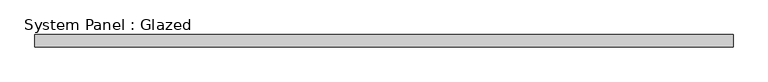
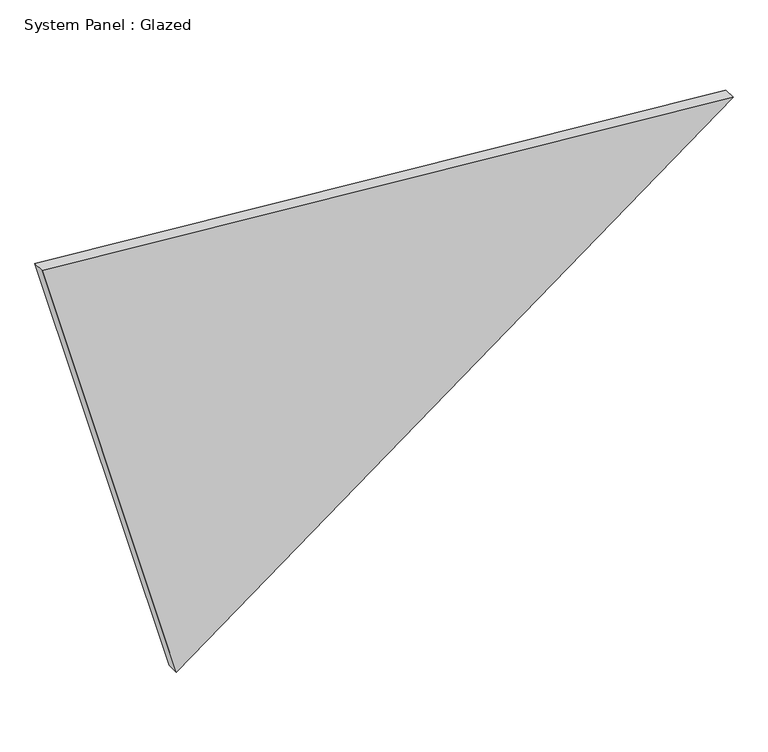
"""IFC4 building model written with IfcOpenShell, lengths in millimetres: plate geometry, System Panel : Glazed."""

from ifc_helpers import new_model, si_unit, frame, origin, place, context, project, spatial, polyline, outline, extrude, source, transform, mapped, element, save


def system_panel_glazed_345259cc(model_context):
    return source(origin(), model_context, "Body", "SweptSolid", [
        extrude(outline(polyline([(0.0, -425.6578776), (833.4759345, 696.3766952), (951.2966006, -696.3766952), (0.0, -425.6578776)])), frame((0.0, -49.5, 0.0), z_axis=(0.0, 1.0, 0.0), x_axis=(0.0, 0.0, 1.0)), (0.0, 0.0, 1.0), 25.0),
    ])


if __name__ == "__main__":
    model = new_model("IFC4")
    model_context = context("Model", 3, world=origin())
    ifc_project = project(units=[si_unit("LENGTHUNIT", "METRE", prefix="MILLI")], contexts=[model_context])
    site = spatial("IfcSite", under=ifc_project)
    building = spatial("IfcBuilding", under=site)
    placement = place(None, origin())
    system_panel_glazed_shape = system_panel_glazed_345259cc(model_context)
    element("IfcPlate", 1, ObjectType="System Panel : Glazed", at=placement, inside=building, context=model_context, shape_type="MappedRepresentation", body=[
        mapped(system_panel_glazed_shape, transform((0.0, 0.0, 0.0), x_axis=(1.0, 0.0, 0.0), y_axis=(0.0, 1.0, 0.0), z_axis=(0.0, 0.0, 1.0))),
    ])
    save(model, "model.ifc")
